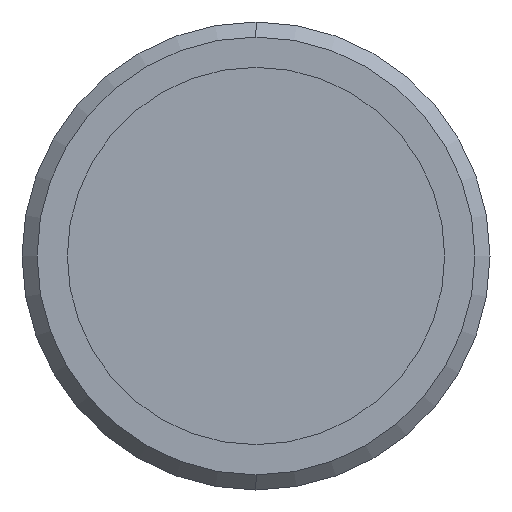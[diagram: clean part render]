
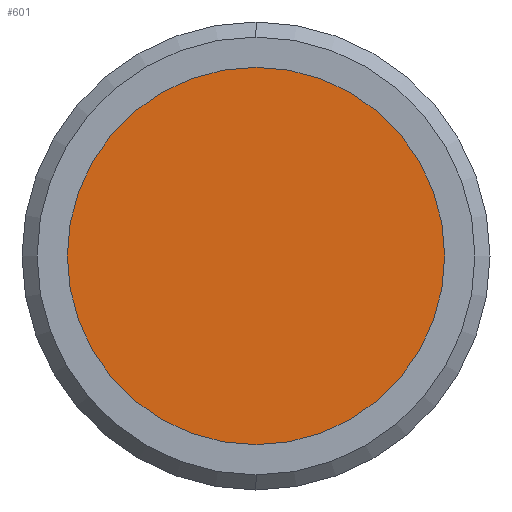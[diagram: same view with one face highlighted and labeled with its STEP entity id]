
A CAD part, left-side view. The second image highlights one B-rep face of the part: STEP entity #601.
In plain terms, the highlighted planar face has unit normal (-1, 0, 0).
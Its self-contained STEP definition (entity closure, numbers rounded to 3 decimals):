
#19 = EDGE_LOOP ( 'NONE', ( #771, #632 ) ) ;
#79 = DIRECTION ( 'NONE',  ( -1., 0., 0. ) ) ;
#94 = CARTESIAN_POINT ( 'NONE',  ( 0., 0., -12.5 ) ) ;
#140 = AXIS2_PLACEMENT_3D ( 'NONE', #615, #79, #539 ) ;
#194 = AXIS2_PLACEMENT_3D ( 'NONE', #338, #384, #949 ) ;
#254 = DIRECTION ( 'NONE',  ( 0., 0., -1. ) ) ;
#338 = CARTESIAN_POINT ( 'NONE',  ( 0., 0., 0. ) ) ;
#384 = DIRECTION ( 'NONE',  ( -1., 0., 0. ) ) ;
#483 = CARTESIAN_POINT ( 'NONE',  ( 0., 0., 0. ) ) ;
#528 = EDGE_CURVE ( 'NONE', #842, #644, #574, .T. ) ;
#539 = DIRECTION ( 'NONE',  ( 0., 0., 1. ) ) ;
#540 = EDGE_CURVE ( 'NONE', #644, #842, #978, .T. ) ;
#572 = CARTESIAN_POINT ( 'NONE',  ( 0., 0., 12.5 ) ) ;
#574 = CIRCLE ( 'NONE', #140, 12.5 ) ;
#601 = ADVANCED_FACE ( 'NONE', ( #769 ), #639, .F. ) ;
#602 = AXIS2_PLACEMENT_3D ( 'NONE', #483, #789, #254 ) ;
#615 = CARTESIAN_POINT ( 'NONE',  ( 0., 0., 0. ) ) ;
#632 = ORIENTED_EDGE ( 'NONE', *, *, #540, .T. ) ;
#639 = PLANE ( 'NONE',  #602 ) ;
#644 = VERTEX_POINT ( 'NONE', #94 ) ;
#769 = FACE_OUTER_BOUND ( 'NONE', #19, .T. ) ;
#771 = ORIENTED_EDGE ( 'NONE', *, *, #528, .T. ) ;
#789 = DIRECTION ( 'NONE',  ( 1., 0., 0. ) ) ;
#842 = VERTEX_POINT ( 'NONE', #572 ) ;
#949 = DIRECTION ( 'NONE',  ( 0., 0., 1. ) ) ;
#978 = CIRCLE ( 'NONE', #194, 12.5 ) ;
